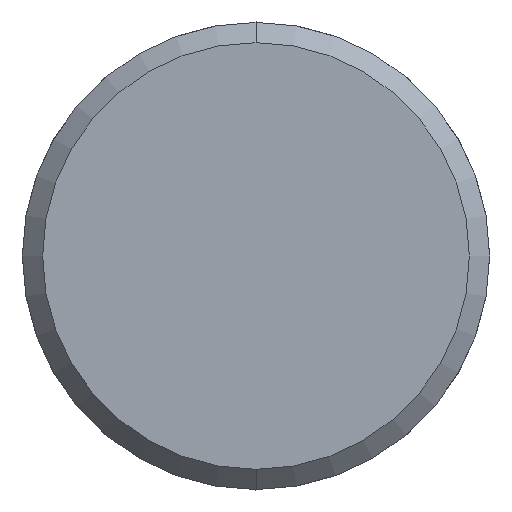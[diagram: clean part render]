
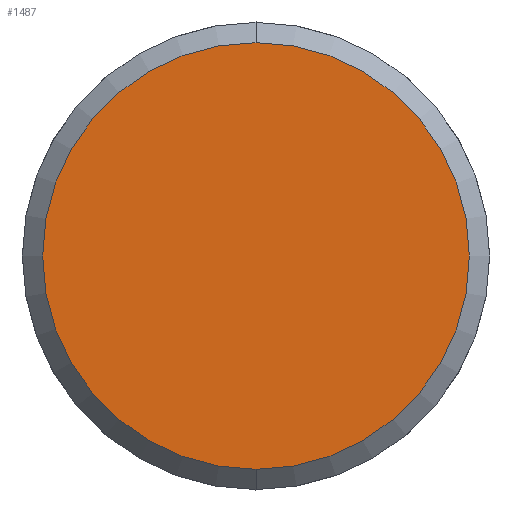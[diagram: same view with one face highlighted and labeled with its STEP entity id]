
A CAD part, front view. The second image highlights one B-rep face of the part: STEP entity #1487.
In plain terms, the highlighted planar face has unit normal (0, -1, 0).
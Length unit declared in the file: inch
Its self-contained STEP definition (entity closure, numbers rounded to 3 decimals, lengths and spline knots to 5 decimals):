
#113 = PLANE ( 'NONE',  #1448 ) ;
#122 = CARTESIAN_POINT ( 'NONE',  ( 0., 0.16403, 0. ) ) ;
#123 = DIRECTION ( 'NONE',  ( 0., 1., 0. ) ) ;
#124 = DIRECTION ( 'NONE',  ( 0., 0., 1. ) ) ;
#190 = CIRCLE ( 'NONE', #1355, 0.658 ) ;
#226 = CIRCLE ( 'NONE', #1366, 0.658 ) ;
#518 = CARTESIAN_POINT ( 'NONE',  ( -3.19531, 0.16403, 0.658 ) ) ;
#529 = CARTESIAN_POINT ( 'NONE',  ( -3.19531, 0.16403, -0.658 ) ) ;
#621 = FACE_OUTER_BOUND ( 'NONE', #946, .T. ) ;
#755 = CARTESIAN_POINT ( 'NONE',  ( -3.19531, 0.16403, 0. ) ) ;
#756 = DIRECTION ( 'NONE',  ( 0., -1., 0. ) ) ;
#757 = DIRECTION ( 'NONE',  ( 0., 0., 1. ) ) ;
#893 = VERTEX_POINT ( 'NONE', #529 ) ;
#897 = VERTEX_POINT ( 'NONE', #518 ) ;
#946 = EDGE_LOOP ( 'NONE', ( #1022, #1104 ) ) ;
#1022 = ORIENTED_EDGE ( 'NONE', *, *, #1271, .T. ) ;
#1104 = ORIENTED_EDGE ( 'NONE', *, *, #1290, .T. ) ;
#1207 = DIRECTION ( 'NONE',  ( 0., 0., 1. ) ) ;
#1208 = DIRECTION ( 'NONE',  ( 0., -1., 0. ) ) ;
#1210 = CARTESIAN_POINT ( 'NONE',  ( -3.19531, 0.16403, 0. ) ) ;
#1271 = EDGE_CURVE ( 'NONE', #897, #893, #190, .T. ) ;
#1290 = EDGE_CURVE ( 'NONE', #893, #897, #226, .T. ) ;
#1355 = AXIS2_PLACEMENT_3D ( 'NONE', #1210, #1208, #1207 ) ;
#1366 = AXIS2_PLACEMENT_3D ( 'NONE', #755, #756, #757 ) ;
#1448 = AXIS2_PLACEMENT_3D ( 'NONE', #122, #123, #124 ) ;
#1487 = ADVANCED_FACE ( 'NONE', ( #621 ), #113, .F. ) ;
